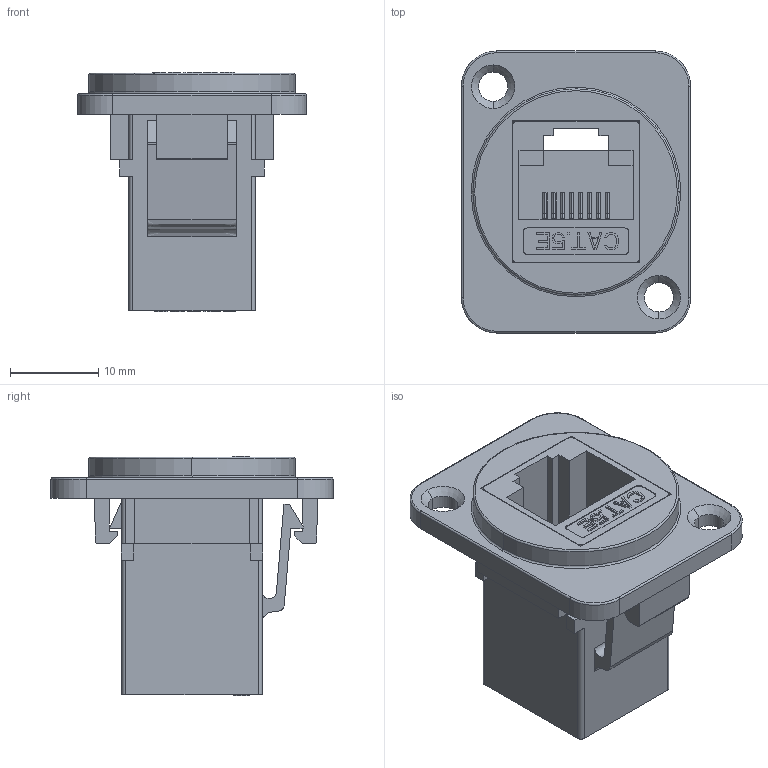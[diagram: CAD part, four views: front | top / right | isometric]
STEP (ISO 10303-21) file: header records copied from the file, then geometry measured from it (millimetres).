
FILE_DESCRIPTION((''),'2;1');
FILE_NAME('CAT5ETWO_ASM_ASM','2024-04-10T16:46:37',('Administrator'),(''),'CREO PARAMETRIC BY PTC INC, 2019010','CREO PARAMETRIC BY PTC INC, 2019010','');
FILE_SCHEMA(('CONFIG_CONTROL_DESIGN'));
Length unit declared in the file: millimetre
Products named in the file (4): CAT5E_7; TWO_3; CAT5ETWO_ASM_3_ASM; CAT5ETWO_ASM_ASM
Assembly tree (3 placements, depth 3):
  CAT5ETWO_ASM_ASM
    CAT5ETWO_ASM_3_ASM
      CAT5E_7
      TWO_3
Bounding box: 26 x 32 x 27.2 mm (x, y, z)
Volume: 6150 mm3; surface area: 6180.8 mm2
Topology: 2 solids, 2 shells, 710 faces, 2015 edges, 1298 vertices
Faces by surface type: plane 544, cylinder 89, torus 40, extrusion 33, cone 4
Entity records: 23238 total; most frequent: CARTESIAN_POINT 4949, ORIENTED_EDGE 3966, DIRECTION 3440, EDGE_CURVE 1983, VECTOR 1716, LINE 1683, VERTEX_POINT 1282, AXIS2_PLACEMENT_3D 862
